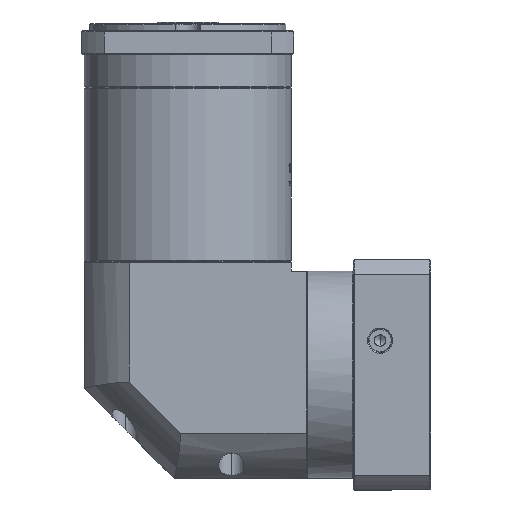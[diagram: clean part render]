
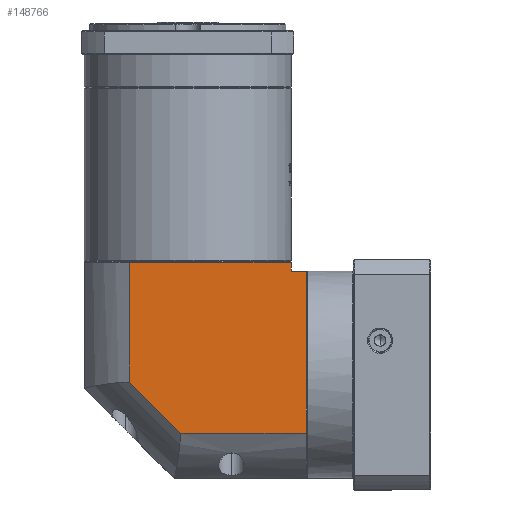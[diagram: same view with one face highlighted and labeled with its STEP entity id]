
A CAD part, left-side view. The second image highlights one B-rep face of the part: STEP entity #148766.
In plain terms, the highlighted planar face has unit normal (-1, 0, 0).
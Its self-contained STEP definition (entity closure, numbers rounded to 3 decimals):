
#547 = VERTEX_POINT ( 'NONE', #39757 ) ;
#742 = VECTOR ( 'NONE', #150840, 1000. ) ;
#3771 = PLANE ( 'NONE',  #122081 ) ;
#4204 = EDGE_CURVE ( 'NONE', #27703, #547, #89700, .T. ) ;
#6359 = VECTOR ( 'NONE', #51087, 1000. ) ;
#18718 = EDGE_LOOP ( 'NONE', ( #163421, #69546, #78012, #92695, #80085, #69549, #53006 ) ) ;
#21472 = CARTESIAN_POINT ( 'NONE',  ( -271.005, -126.055, 60.624 ) ) ;
#22787 = VECTOR ( 'NONE', #65995, 1000. ) ;
#27262 = DIRECTION ( 'NONE',  ( 0., 1., 0. ) ) ;
#27703 = VERTEX_POINT ( 'NONE', #44610 ) ;
#28820 = CARTESIAN_POINT ( 'NONE',  ( -271.005, -117.655, -54.376 ) ) ;
#34348 = LINE ( 'NONE', #62351, #742 ) ;
#36322 = EDGE_CURVE ( 'NONE', #40852, #126028, #145494, .T. ) ;
#39757 = CARTESIAN_POINT ( 'NONE',  ( -271.005, -117.655, 65.624 ) ) ;
#40852 = VERTEX_POINT ( 'NONE', #21472 ) ;
#42684 = CARTESIAN_POINT ( 'NONE',  ( -271.005, -117.655, 60.624 ) ) ;
#44610 = CARTESIAN_POINT ( 'NONE',  ( -271.005, -27.755, 65.624 ) ) ;
#51087 = DIRECTION ( 'NONE',  ( 0., 0., -1. ) ) ;
#52519 = VERTEX_POINT ( 'NONE', #143239 ) ;
#53006 = ORIENTED_EDGE ( 'NONE', *, *, #4204, .F. ) ;
#62023 = VECTOR ( 'NONE', #161549, 1000. ) ;
#62351 = CARTESIAN_POINT ( 'NONE',  ( -271.005, -27.755, 72.124 ) ) ;
#65995 = DIRECTION ( 'NONE',  ( 0., 1., 0. ) ) ;
#69546 = ORIENTED_EDGE ( 'NONE', *, *, #128051, .F. ) ;
#69549 = ORIENTED_EDGE ( 'NONE', *, *, #154501, .T. ) ;
#77495 = CARTESIAN_POINT ( 'NONE',  ( -271.005, -2.655, -29.276 ) ) ;
#77921 = EDGE_CURVE ( 'NONE', #52519, #27703, #34348, .T. ) ;
#78012 = ORIENTED_EDGE ( 'NONE', *, *, #84577, .F. ) ;
#80085 = ORIENTED_EDGE ( 'NONE', *, *, #36322, .T. ) ;
#81944 = CARTESIAN_POINT ( 'NONE',  ( -271.005, -126.055, -29.276 ) ) ;
#84577 = EDGE_CURVE ( 'NONE', #133945, #153175, #97973, .T. ) ;
#89700 = LINE ( 'NONE', #148753, #62023 ) ;
#92695 = ORIENTED_EDGE ( 'NONE', *, *, #94619, .F. ) ;
#94619 = EDGE_CURVE ( 'NONE', #40852, #133945, #99317, .T. ) ;
#97973 = LINE ( 'NONE', #77495, #117888 ) ;
#99317 = LINE ( 'NONE', #140163, #6359 ) ;
#106665 = DIRECTION ( 'NONE',  ( 1., 0., 0. ) ) ;
#108461 = VECTOR ( 'NONE', #117907, 1000. ) ;
#110406 = LINE ( 'NONE', #126989, #146071 ) ;
#116504 = CARTESIAN_POINT ( 'NONE',  ( -271.005, -117.655, 60.624 ) ) ;
#117888 = VECTOR ( 'NONE', #27262, 1000. ) ;
#117907 = DIRECTION ( 'NONE',  ( 0., 0., 1. ) ) ;
#119386 = DIRECTION ( 'NONE',  ( 0., 1., 0. ) ) ;
#122081 = AXIS2_PLACEMENT_3D ( 'NONE', #132065, #106665, #119386 ) ;
#124339 = LINE ( 'NONE', #28820, #108461 ) ;
#126028 = VERTEX_POINT ( 'NONE', #116504 ) ;
#126989 = CARTESIAN_POINT ( 'NONE',  ( -271.005, -56.093, -29.276 ) ) ;
#128051 = EDGE_CURVE ( 'NONE', #153175, #52519, #110406, .T. ) ;
#128488 = FACE_OUTER_BOUND ( 'NONE', #18718, .T. ) ;
#129590 = CARTESIAN_POINT ( 'NONE',  ( -271.005, -56.093, -29.276 ) ) ;
#132065 = CARTESIAN_POINT ( 'NONE',  ( -271.005, -2.655, 72.124 ) ) ;
#133945 = VERTEX_POINT ( 'NONE', #81944 ) ;
#140163 = CARTESIAN_POINT ( 'NONE',  ( -271.005, -126.055, 72.124 ) ) ;
#143239 = CARTESIAN_POINT ( 'NONE',  ( -271.005, -27.755, -0.938 ) ) ;
#145494 = LINE ( 'NONE', #42684, #22787 ) ;
#146071 = VECTOR ( 'NONE', #149041, 1000. ) ;
#148753 = CARTESIAN_POINT ( 'NONE',  ( -271.005, -2.655, 65.624 ) ) ;
#148766 = ADVANCED_FACE ( 'NONE', ( #128488 ), #3771, .F. ) ;
#149041 = DIRECTION ( 'NONE',  ( 0., 0.707, 0.707 ) ) ;
#150840 = DIRECTION ( 'NONE',  ( 0., 0., 1. ) ) ;
#153175 = VERTEX_POINT ( 'NONE', #129590 ) ;
#154501 = EDGE_CURVE ( 'NONE', #126028, #547, #124339, .T. ) ;
#161549 = DIRECTION ( 'NONE',  ( 0., -1., 0. ) ) ;
#163421 = ORIENTED_EDGE ( 'NONE', *, *, #77921, .F. ) ;
